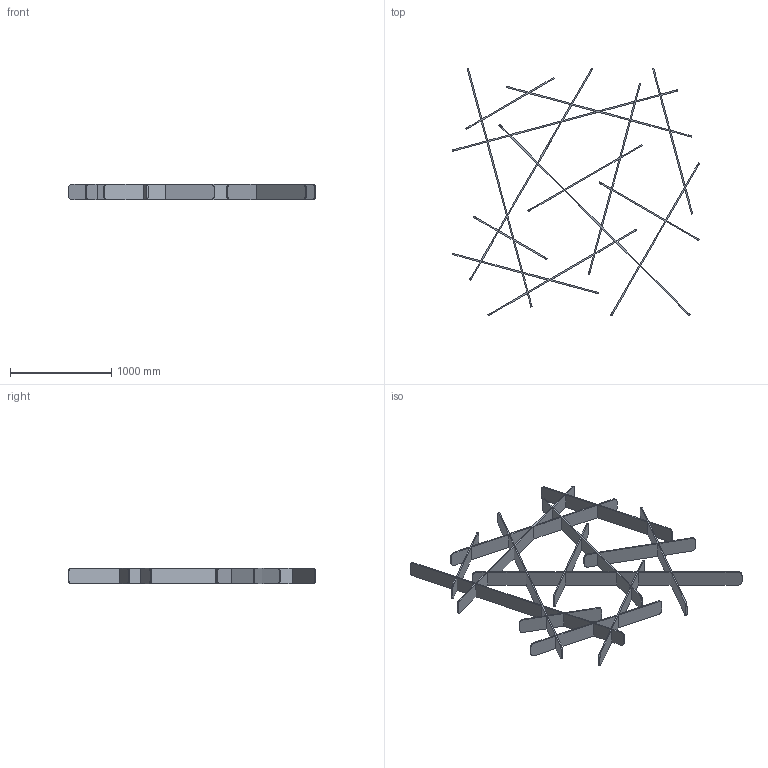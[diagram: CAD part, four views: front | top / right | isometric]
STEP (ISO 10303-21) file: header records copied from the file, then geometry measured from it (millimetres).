
FILE_DESCRIPTION(/* description */ (''),/* implementation_level */ '2;1');
FILE_NAME(/* name */ 'Thatch Radiused Simplified',/* time_stamp */ '2026-04-13T11:12:18-05:00',/* author */ (''),/* organization */ (''),/* preprocessor_version */ 'ST-DEVELOPER v19.2',/* originating_system */ 'Rhino 8.29',/* authorisation */ '');
FILE_SCHEMA (('CONFIG_CONTROL_DESIGN'));
Length unit declared in the file: inch
Products named in the file (1): Document
Bounding box: 2445.54 x 2447.07 x 152.4 mm (x, y, z)
Volume: 46070506.2 mm3; surface area: 7775960.3 mm2
Topology: 1 solids, 1 shells, 226 faces, 672 edges, 448 vertices
Faces by surface type: plane 170, cylinder 56
Entity records: 7336 total; most frequent: CARTESIAN_POINT 2328, ORIENTED_EDGE 1344, EDGE_CURVE 672, B_SPLINE_CURVE_WITH_KNOTS 558, VERTEX_POINT 448, DIRECTION 426, AXIS2_PLACEMENT_3D 312, EDGE_LOOP 256
